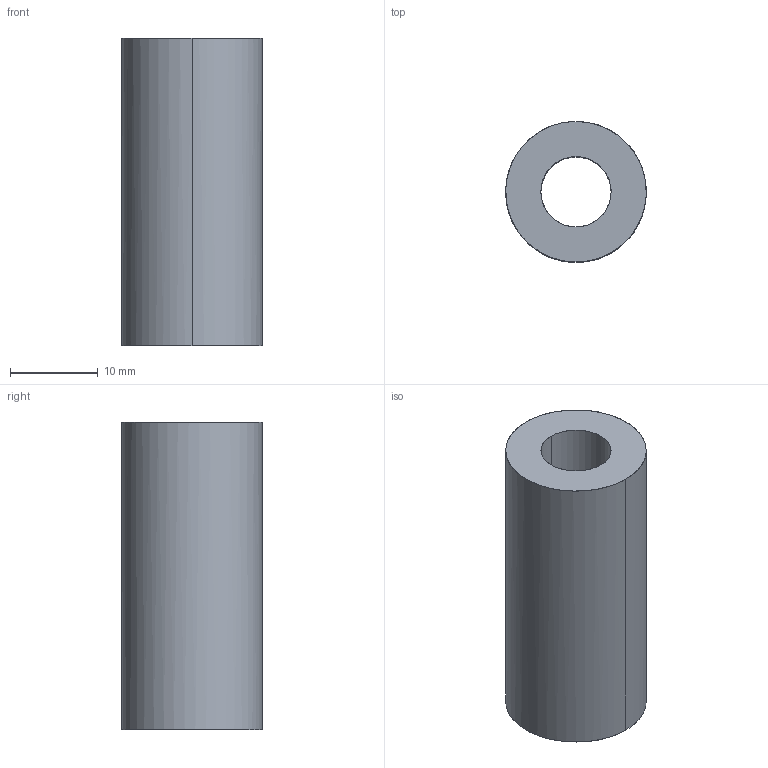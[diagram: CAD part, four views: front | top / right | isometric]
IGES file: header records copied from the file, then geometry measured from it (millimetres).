
Global section: file name: E:\UnigraphicsGraphicData\MISUMI_PRESS-PARTS\IGES\3d_swv16-35_00755_r00.igs; native system: NX V5.0; preprocessor: UGS NX IGES V5.0; author: MISUMI; date: 20110105.163300; units: millimetre
Bounding box: 16 x 16 x 35 mm (x, y, z)
Surface area: 2941.5 mm2 (no closed solid volume)
Topology: 0 solids, 0 shells, 6 faces, 48 edges, 48 vertices
Faces by surface type: bspline 6
